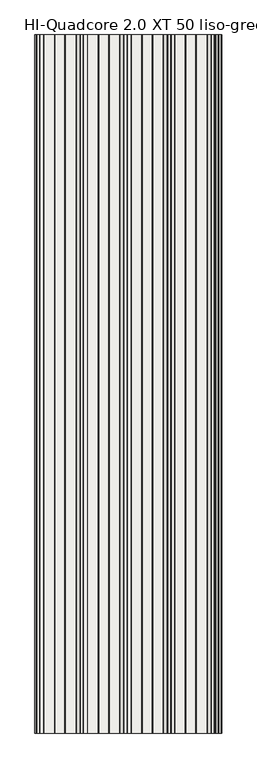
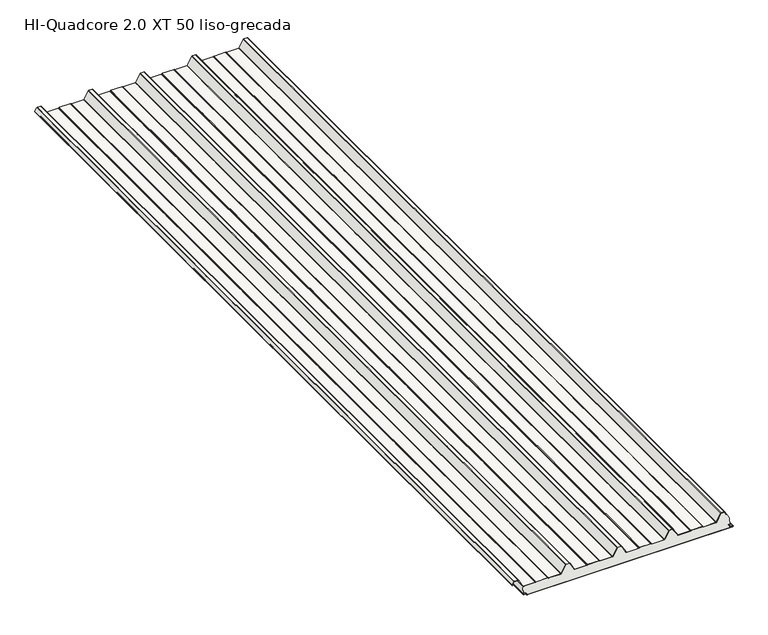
"""IFC4 building model written with IfcOpenShell, lengths in millimetres: slab geometry, Panel_HI_QuadCore 2.0 XT-XT DUAL_liso-grecada : HI-Quadcore 2.0 XT 50 liso-grecada."""

from ifc_helpers import new_model, si_unit, point, frame, frame_2d, origin, place, context, project, spatial, polyline, circle_curve, trimmed, segment, composite_curve, outline, extrude, source, transform, mapped, element, save
from ifc_brep_helpers import plane_surface, cylinder_surface, revolved_surface, advanced_brep


def hi_quadcore_2_0_xt_50_liso_grecada_518eda4b(model_context):
    return source(origin(), model_context, "Body", "SolidModel", [
        advanced_brep(
        [(-463.5686109, 0.0, 13.3795578), (-464.1543582, 0.0, 11.9654043), (-464.1543963, 0.0, 8.2995811), (-462.3003213, 0.0, 6.328543), (-451.8922768, 0.0, 5.5663871), (-450.0967368, 0.0, 3.5769209), (-450.0966924, 0.0, 1.9756011), (-448.096637, 0.0, -0.0243435), (547.9162803, 0.0, 0.003269), (549.9046779, 0.0, 2.0032908), (549.904653, 0.0, 2.9012893), (548.0077486, 0.0, 4.8985749), (536.1928118, 0.0, 5.7933732), (534.3438482, 0.0, 7.7876066), (534.3437386, 0.0, 11.7402379), (533.757913, 0.0, 13.1544352), (532.3436602, 0.0, 14.5686095), (531.7779748, 0.0, 14.0029241), (533.1922433, 0.0, 12.5887341), (533.5437386, 0.0, 11.7402157), (533.5438482, 0.0, 7.7875844), (536.1323972, 0.0, 4.9956577), (547.958132, 0.0, 4.1000416), (549.104653, 0.0, 2.9012672), (549.1046779, 0.0, 2.0032686), (547.9136554, 0.0, 0.8032689), (-448.0966592, 0.0, 0.7756565), (-449.2966924, 0.0, 1.9756233), (-449.2967368, 0.0, 3.5769431), (-451.8231384, 0.0, 6.3634663), (-462.2418956, 0.0, 7.1264067), (-463.3542572, 0.0, 8.3231689), (-463.3543582, 0.0, 11.965396), (-463.0029098, 0.0, 12.8138881), (-460.8967817, 0.0, 14.920133), (-461.4624671, 0.0, 15.4858184), (-463.5686109, 4000.0, 13.3795578), (-461.4624671, 4000.0, 15.4858184), (-460.8967817, 4000.0, 14.920133), (-463.0029098, 4000.0, 12.8138881), (-463.3543582, 4000.0, 11.965396), (-463.3543963, 4000.0, 8.2995728), (-462.2418956, 4000.0, 7.1264067), (-451.8231384, 4000.0, 6.3634663), (-449.2967368, 4000.0, 3.5769431), (-449.2966924, 4000.0, 1.9756233), (-448.0966592, 4000.0, 0.7756565), (547.9136554, 4000.0, 0.8032689), (549.1046779, 4000.0, 2.0032686), (549.104653, 4000.0, 2.9012672), (547.958132, 4000.0, 4.1000416), (536.1323972, 4000.0, 4.9956577), (533.5438482, 4000.0, 7.7875844), (533.5437386, 4000.0, 11.7402157), (533.1922433, 4000.0, 12.5887341), (531.7779748, 4000.0, 14.0029241), (532.3436602, 4000.0, 14.5686095), (533.757913, 4000.0, 13.1544352), (534.3437386, 4000.0, 11.7402379), (534.3438482, 4000.0, 7.7876066), (536.1928118, 4000.0, 5.7933732), (548.0077486, 4000.0, 4.8985749), (549.904653, 4000.0, 2.9012893), (549.9046779, 4000.0, 2.0032908), (547.9162803, 4000.0, 0.003269), (-448.096637, 4000.0, -0.0243435), (-450.0966924, 4000.0, 1.9756011), (-450.0967368, 4000.0, 3.5769209), (-451.8922768, 4000.0, 5.5663871), (-462.3003213, 4000.0, 6.328543), (-464.1542572, 4000.0, 8.3231467), (-464.1543582, 4000.0, 11.9654043)],
        [
            (0, 1, circle_curve(frame((-462.1543582, 0.0, 11.9653834), z_axis=(0.0, -1.0, 0.0), x_axis=(1.0, 0.0, 0.0)), 2.0)),
            (1, 2),
            (2, 3, circle_curve(frame((-462.1542572, 0.0, 8.3232022), z_axis=(0.0, -1.0, 0.0), x_axis=(1.0, 0.0, 0.0)), 2.0)),
            (3, 4),
            (4, 5, circle_curve(frame((-452.0967368, 0.0, 3.5768655), z_axis=(0.0, 1.0, 0.0), x_axis=(1.0, 0.0, 0.0)), 2.0)),
            (5, 6),
            (6, 7, circle_curve(frame((-448.0966924, 0.0, 1.9756565), z_axis=(0.0, -1.0, 0.0), x_axis=(1.0, 0.0, 0.0)), 2.0)),
            (7, 8),
            (8, 9, circle_curve(frame((547.9046779, 0.0, 2.0032353), z_axis=(0.0, -1.0, 0.0), x_axis=(1.0, 0.0, 0.0)), 2.0)),
            (9, 10),
            (10, 11, circle_curve(frame((547.904653, 0.0, 2.9012339), z_axis=(0.0, -1.0, 0.0), x_axis=(1.0, 0.0, 0.0)), 2.0)),
            (11, 12),
            (12, 13, circle_curve(frame((536.3438482, 0.0, 7.7876621), z_axis=(0.0, 1.0, 0.0), x_axis=(1.0, 0.0, 0.0)), 2.0)),
            (13, 14),
            (14, 15, circle_curve(frame((532.3437386, 0.0, 11.7401824), z_axis=(0.0, -1.0, 0.0), x_axis=(1.0, 0.0, 0.0)), 2.0)),
            (15, 16),
            (16, 17),
            (17, 18),
            (18, 19, circle_curve(frame((532.3437386, 0.0, 11.7401824), z_axis=(0.0, 1.0, 0.0), x_axis=(1.0, 0.0, 0.0)), 1.2)),
            (19, 20),
            (20, 21, circle_curve(frame((536.3438482, 0.0, 7.7876621), z_axis=(0.0, -1.0, 0.0), x_axis=(1.0, 0.0, 0.0)), 2.8)),
            (21, 22),
            (22, 23, circle_curve(frame((547.904653, 0.0, 2.9012339), z_axis=(0.0, 1.0, 0.0), x_axis=(1.0, 0.0, 0.0)), 1.2)),
            (23, 24),
            (24, 25, circle_curve(frame((547.9046779, 0.0, 2.0032353), z_axis=(0.0, 1.0, 0.0), x_axis=(1.0, 0.0, 0.0)), 1.2)),
            (25, 26),
            (26, 27, circle_curve(frame((-448.0966924, 0.0, 1.9756565), z_axis=(0.0, 1.0, 0.0), x_axis=(1.0, 0.0, 0.0)), 1.2)),
            (27, 28),
            (28, 29, circle_curve(frame((-452.0967368, 0.0, 3.5768655), z_axis=(0.0, -1.0, 0.0), x_axis=(1.0, 0.0, 0.0)), 2.8)),
            (29, 30),
            (30, 31, circle_curve(frame((-462.1542572, 0.0, 8.3232022), z_axis=(0.0, 1.0, 0.0), x_axis=(1.0, 0.0, 0.0)), 1.2)),
            (31, 32),
            (32, 33, circle_curve(frame((-462.1543582, 0.0, 11.9653834), z_axis=(0.0, 1.0, 0.0), x_axis=(1.0, 0.0, 0.0)), 1.2)),
            (33, 34),
            (34, 35),
            (35, 0),
            (36, 37),
            (37, 38),
            (38, 39),
            (39, 40, circle_curve(frame((-462.1543582, 4000.0, 11.9653834), z_axis=(0.0, -1.0, 0.0), x_axis=(1.0, 0.0, 0.0)), 1.2)),
            (40, 41),
            (41, 42, circle_curve(frame((-462.1542572, 4000.0, 8.3232022), z_axis=(0.0, -1.0, 0.0), x_axis=(1.0, 0.0, 0.0)), 1.2)),
            (42, 43),
            (43, 44, circle_curve(frame((-452.0967368, 4000.0, 3.5768655), z_axis=(0.0, 1.0, 0.0), x_axis=(1.0, 0.0, 0.0)), 2.8)),
            (44, 45),
            (45, 46, circle_curve(frame((-448.0966924, 4000.0, 1.9756565), z_axis=(0.0, -1.0, 0.0), x_axis=(1.0, 0.0, 0.0)), 1.2)),
            (46, 47),
            (47, 48, circle_curve(frame((547.9046779, 4000.0, 2.0032353), z_axis=(0.0, -1.0, 0.0), x_axis=(1.0, 0.0, 0.0)), 1.2)),
            (48, 49),
            (49, 50, circle_curve(frame((547.904653, 4000.0, 2.9012339), z_axis=(0.0, -1.0, 0.0), x_axis=(1.0, 0.0, 0.0)), 1.2)),
            (50, 51),
            (51, 52, circle_curve(frame((536.3438482, 4000.0, 7.7876621), z_axis=(0.0, 1.0, 0.0), x_axis=(1.0, 0.0, 0.0)), 2.8)),
            (52, 53),
            (53, 54, circle_curve(frame((532.3437386, 4000.0, 11.7401824), z_axis=(0.0, -1.0, 0.0), x_axis=(1.0, 0.0, 0.0)), 1.2)),
            (54, 55),
            (55, 56),
            (56, 57),
            (57, 58, circle_curve(frame((532.3437386, 4000.0, 11.7401824), z_axis=(0.0, 1.0, 0.0), x_axis=(1.0, 0.0, 0.0)), 2.0)),
            (58, 59),
            (59, 60, circle_curve(frame((536.3438482, 4000.0, 7.7876621), z_axis=(0.0, -1.0, 0.0), x_axis=(1.0, 0.0, 0.0)), 2.0)),
            (60, 61),
            (61, 62, circle_curve(frame((547.904653, 4000.0, 2.9012339), z_axis=(0.0, 1.0, 0.0), x_axis=(1.0, 0.0, 0.0)), 2.0)),
            (62, 63),
            (63, 64, circle_curve(frame((547.9046779, 4000.0, 2.0032353), z_axis=(0.0, 1.0, 0.0), x_axis=(1.0, 0.0, 0.0)), 2.0)),
            (64, 65),
            (65, 66, circle_curve(frame((-448.0966924, 4000.0, 1.9756565), z_axis=(0.0, 1.0, 0.0), x_axis=(1.0, 0.0, 0.0)), 2.0)),
            (66, 67),
            (67, 68, circle_curve(frame((-452.0967368, 4000.0, 3.5768655), z_axis=(0.0, -1.0, 0.0), x_axis=(1.0, 0.0, 0.0)), 2.0)),
            (68, 69),
            (69, 70, circle_curve(frame((-462.1542572, 4000.0, 8.3232022), z_axis=(0.0, 1.0, 0.0), x_axis=(1.0, 0.0, 0.0)), 2.0)),
            (70, 71),
            (71, 36, circle_curve(frame((-462.1543582, 4000.0, 11.9653834), z_axis=(0.0, 1.0, 0.0), x_axis=(1.0, 0.0, 0.0)), 2.0)),
            (0, 36),
            (71, 1),
            (70, 2),
            (69, 3),
            (68, 4),
            (67, 5),
            (66, 6),
            (65, 7),
            (64, 8),
            (63, 9),
            (62, 10),
            (61, 11),
            (60, 12),
            (59, 13),
            (58, 14),
            (57, 15),
            (56, 16),
            (55, 17),
            (54, 18),
            (53, 19),
            (52, 20),
            (51, 21),
            (50, 22),
            (49, 23),
            (48, 24),
            (47, 25),
            (46, 26),
            (45, 27),
            (44, 28),
            (43, 29),
            (42, 30),
            (41, 31),
            (40, 32),
            (39, 33),
            (38, 34),
            (37, 35),
        ],
        [
            plane_surface(frame((-460.1543582, 0.0, 11.9653834), z_axis=(0.0, -1.0, 0.0), x_axis=(0.0, 0.0, 1.0))),
            plane_surface(frame((-460.1543582, 4000.0, 11.9653834), z_axis=(0.0, 1.0, 0.0), x_axis=(0.0, 0.0, -1.0))),
            cylinder_surface(frame((-462.1543582, 4000.0, 11.9653834), z_axis=(0.0, -1.0, 0.0), x_axis=(1.0, 0.0, 0.0)), 2.0),
            plane_surface(frame((-464.1543582, 0.0, 11.9654043), z_axis=(-0.9999999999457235, 0.0, 1.041887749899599e-05), x_axis=(0.0, 1.0, 0.0))),
            cylinder_surface(frame((-462.1542572, 4000.0, 8.3232022), z_axis=(0.0, -1.0, 0.0), x_axis=(1.0, 0.0, 0.0)), 2.0),
            plane_surface(frame((-462.3003213, 0.0, 6.328543), z_axis=(-0.07303203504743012, 0.0, -0.9973295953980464), x_axis=(0.0, 1.0, 0.0))),
            revolved_surface(polyline([(-450.0967368, 4000.0, 3.5768655), (-450.0967368, 0.0, 3.5768655)]), (-452.0967368, 4000.0, 3.5768655), (0.0, 1.0, 0.0)),
            plane_surface(frame((-450.0967368, 0.0, 3.5769209), z_axis=(-0.9999999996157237, 0.0, -2.7722781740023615e-05), x_axis=(0.0, 1.0, 0.0))),
            cylinder_surface(frame((-448.0966924, 4000.0, 1.9756565), z_axis=(0.0, -1.0, 0.0), x_axis=(1.0, 0.0, 0.0)), 2.0),
            plane_surface(frame((-448.096637, 0.0, -0.0243435), z_axis=(2.772298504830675e-05, 0.0, -0.9999999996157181), x_axis=(0.0, 1.0, 0.0))),
            cylinder_surface(frame((547.9046779, 4000.0, 2.0032353), z_axis=(0.0, -1.0, 0.0), x_axis=(1.0, 0.0, 0.0)), 2.0),
            plane_surface(frame((549.9046779, 0.0, 2.0032908), z_axis=(0.9999999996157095, 0.0, 2.7723295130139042e-05), x_axis=(0.0, 1.0, 0.0))),
            cylinder_surface(frame((547.904653, 4000.0, 2.9012339), z_axis=(0.0, -1.0, 0.0), x_axis=(1.0, 0.0, 0.0)), 2.0),
            plane_surface(frame((548.0077486, 0.0, 4.8985749), z_axis=(0.07551822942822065, 0.0, 0.9971444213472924), x_axis=(0.0, 1.0, 0.0))),
            revolved_surface(polyline([(538.3438482, 4000.0, 7.7876621), (538.3438482, 0.0, 7.7876621)]), (536.3438482, 4000.0, 7.7876621), (0.0, 1.0, 0.0)),
            plane_surface(frame((534.3438482, 0.0, 7.7876066), z_axis=(0.9999999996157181, 0.0, 2.7722984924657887e-05), x_axis=(0.0, 1.0, 0.0))),
            cylinder_surface(frame((532.3437386, 4000.0, 11.7401824), z_axis=(0.0, -1.0, 0.0), x_axis=(1.0, 0.0, 0.0)), 2.0),
            plane_surface(frame((533.757913, 0.0, 13.1544352), z_axis=(0.7070871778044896, 0.0, 0.7071263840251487), x_axis=(0.0, 1.0, 0.0))),
            plane_surface(frame((532.3436602, 0.0, 14.5686095), z_axis=(-0.7071067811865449, 0.0, 0.7071067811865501), x_axis=(0.0, 1.0, 0.0))),
            plane_surface(frame((531.7779748, 0.0, 14.0029241), z_axis=(-0.7070871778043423, 0.0, -0.707126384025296), x_axis=(0.0, 1.0, 0.0))),
            revolved_surface(polyline([(533.5437386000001, 4000.0, 11.7401824), (533.5437386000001, 0.0, 11.7401824)]), (532.3437386, 4000.0, 11.7401824), (0.0, 1.0, 0.0)),
            plane_surface(frame((533.5437386, 0.0, 11.7402157), z_axis=(-0.9999999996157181, 0.0, -2.7722985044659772e-05), x_axis=(0.0, 1.0, 0.0))),
            cylinder_surface(frame((536.3438482, 4000.0, 7.7876621), z_axis=(0.0, -1.0, 0.0), x_axis=(1.0, 0.0, 0.0)), 2.8),
            plane_surface(frame((536.1323972, 0.0, 4.9956577), z_axis=(-0.07551822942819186, 0.0, -0.9971444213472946), x_axis=(0.0, 1.0, 0.0))),
            revolved_surface(polyline([(549.1046530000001, 4000.0, 2.9012339), (549.1046530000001, 0.0, 2.9012339)]), (547.904653, 4000.0, 2.9012339), (0.0, 1.0, 0.0)),
            plane_surface(frame((549.104653, 0.0, 2.9012672), z_axis=(-0.9999999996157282, 0.0, -2.7722622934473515e-05), x_axis=(0.0, 1.0, 0.0))),
            revolved_surface(polyline([(549.1046779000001, 4000.0, 2.0032353), (549.1046779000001, 0.0, 2.0032353)]), (547.9046779, 4000.0, 2.0032353), (0.0, 1.0, 0.0)),
            plane_surface(frame((547.9136554, 0.0, 0.8032689), z_axis=(-2.7722985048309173e-05, 0.0, 0.9999999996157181), x_axis=(0.0, 1.0, 0.0))),
            revolved_surface(polyline([(-446.8966924, 4000.0, 1.9756565), (-446.8966924, 0.0, 1.9756565)]), (-448.0966924, 4000.0, 1.9756565), (0.0, 1.0, 0.0)),
            plane_surface(frame((-449.2966924, 0.0, 1.9756233), z_axis=(0.9999999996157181, 0.0, 2.7722983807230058e-05), x_axis=(0.0, 1.0, 0.0))),
            cylinder_surface(frame((-452.0967368, 4000.0, 3.5768655), z_axis=(0.0, -1.0, 0.0), x_axis=(1.0, 0.0, 0.0)), 2.8),
            plane_surface(frame((-451.8231384, 0.0, 6.3634663), z_axis=(0.0730320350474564, 0.0, 0.9973295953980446), x_axis=(0.0, 1.0, 0.0))),
            revolved_surface(polyline([(-460.95425720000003, 4000.0, 8.3232022), (-460.95425720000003, 0.0, 8.3232022)]), (-462.1542572, 4000.0, 8.3232022), (0.0, 1.0, 0.0)),
            plane_surface(frame((-463.3543963, 0.0, 8.2995728), z_axis=(0.9999999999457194, 0.0, -1.0419274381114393e-05), x_axis=(0.0, 1.0, 0.0))),
            revolved_surface(polyline([(-460.9543582, 4000.0, 11.9653834), (-460.9543582, 0.0, 11.9653834)]), (-462.1543582, 4000.0, 11.9653834), (0.0, 1.0, 0.0)),
            plane_surface(frame((-463.0029098, 0.0, 12.8138881), z_axis=(0.7071263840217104, 0.0, -0.7070871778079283), x_axis=(0.0, 1.0, 0.0))),
            plane_surface(frame((-460.8967817, 0.0, 14.920133), z_axis=(0.7071067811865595, 0.0, 0.7071067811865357), x_axis=(0.0, 1.0, 0.0))),
            plane_surface(frame((-461.4624671, 0.0, 15.4858184), z_axis=(-0.7071263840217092, 0.0, 0.7070871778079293), x_axis=(0.0, 1.0, 0.0))),
        ],
        [
            (0, [[1, 2, 3, 4, 5, 6, 7, 8, 9, 10, 11, 12, 13, 14, 15, 16, 17, 18, 19, 20, 21, 22, 23, 24, 25, 26, 27, 28, 29, 30, 31, 32, 33, 34, 35, 36]]),
            (1, [[37, 38, 39, 40, 41, 42, 43, 44, 45, 46, 47, 48, 49, 50, 51, 52, 53, 54, 55, 56, 57, 58, 59, 60, 61, 62, 63, 64, 65, 66, 67, 68, 69, 70, 71, 72]]),
            (2, [[-1, 73, -72, 74]]),
            (3, [[-2, -74, -71, 75]]),
            (4, [[-3, -75, -70, 76]]),
            (5, [[-4, -76, -69, 77]]),
            (6, [[-5, -77, -68, 78]]),
            (7, [[-6, -78, -67, 79]]),
            (8, [[-7, -79, -66, 80]]),
            (9, [[-8, -80, -65, 81]]),
            (10, [[-9, -81, -64, 82]]),
            (11, [[-10, -82, -63, 83]]),
            (12, [[-11, -83, -62, 84]]),
            (13, [[-12, -84, -61, 85]]),
            (14, [[-13, -85, -60, 86]]),
            (15, [[-14, -86, -59, 87]]),
            (16, [[-15, -87, -58, 88]]),
            (17, [[-16, -88, -57, 89]]),
            (18, [[-17, -89, -56, 90]]),
            (19, [[-18, -90, -55, 91]]),
            (20, [[-19, -91, -54, 92]]),
            (21, [[-20, -92, -53, 93]]),
            (22, [[-21, -93, -52, 94]]),
            (23, [[-22, -94, -51, 95]]),
            (24, [[-23, -95, -50, 96]]),
            (25, [[-24, -96, -49, 97]]),
            (26, [[-25, -97, -48, 98]]),
            (27, [[-26, -98, -47, 99]]),
            (28, [[-27, -99, -46, 100]]),
            (29, [[-28, -100, -45, 101]]),
            (30, [[-29, -101, -44, 102]]),
            (31, [[-30, -102, -43, 103]]),
            (32, [[-31, -103, -42, 104]]),
            (33, [[-32, -104, -41, 105]]),
            (34, [[-33, -105, -40, 106]]),
            (35, [[-34, -106, -39, 107]]),
            (36, [[-35, -107, -38, 108]]),
            (37, [[-36, -108, -37, -73]]),
        ],
    ),
        extrude(outline(composite_curve([segment(polyline([(88.1649405, -511.4858571), (73.6579587, -519.6460344)]), True, "CONTINUOUS"), segment(trimmed(circle_curve(frame_2d((73.0451321, -518.556565)), 1.25), [point((73.6579587, -519.6460344))], [point((72.689225, -517.3583037))], False, "CARTESIAN"), True, "CONTINUOUS"), segment(polyline([(72.689225, -517.3583037), (75.7359115, -516.562859), (75.9380053, -517.336912), (72.9074492, -518.1281453)]), True, "CONTINUOUS"), segment(trimmed(circle_curve(frame_2d((73.0451321, -518.556565)), 0.45), [point((72.9074492, -518.1281453))], [point((73.2657497, -518.948774))], True, "CARTESIAN"), True, "CONTINUOUS"), segment(polyline([(73.2657497, -518.948774), (87.7727315, -510.7885967)]), True, "CONTINUOUS"), segment(trimmed(circle_curve(frame_2d((86.4, -508.3481852)), 2.8), [point((87.7727315, -510.7885967))], [point((89.2, -508.3481852))], True, "CARTESIAN"), True, "CONTINUOUS"), segment(polyline([(89.2, -508.3481852), (89.2, -491.0688883)]), True, "CONTINUOUS"), segment(trimmed(circle_curve(frame_2d((86.4, -491.0688883)), 2.8), [point((89.2, -491.0688883))], [point((87.5457267, -488.5140281))], True, "CARTESIAN"), True, "CONTINUOUS"), segment(polyline([(87.5457267, -488.5140281), (51.2048889, -468.6947225)]), True, "CONTINUOUS"), segment(trimmed(circle_curve(frame_2d((53.0, -465.3454575)), 3.8), [point((51.2048889, -468.6947225))], [point((49.2, -465.3454575))], False, "CARTESIAN"), True, "CONTINUOUS"), segment(polyline([(49.2, -465.3454575), (49.2, -407.5510443)]), True, "CONTINUOUS"), segment(trimmed(circle_curve(frame_2d((53.0, -407.5510443)), 3.8), [point((49.2, -407.5510443))], [point((49.6973596, -405.671532))], False, "CARTESIAN"), True, "CONTINUOUS"), segment(polyline([(49.6973596, -405.671532), (50.912055, -403.5370944)]), True, "CONTINUOUS"), segment(trimmed(circle_curve(frame_2d((49.0, -402.4489557)), 2.2), [point((50.912055, -403.5370944))], [point((51.2, -402.4489557))], True, "CARTESIAN"), True, "CONTINUOUS"), segment(polyline([(51.2, -402.4489557), (51.2, -347.5510443)]), True, "CONTINUOUS"), segment(trimmed(circle_curve(frame_2d((49.0, -347.5510443)), 2.2), [point((51.2, -347.5510443))], [point((50.912055, -346.4629056))], True, "CARTESIAN"), True, "CONTINUOUS"), segment(polyline([(50.912055, -346.4629056), (49.6973596, -344.328468)]), True, "CONTINUOUS"), segment(trimmed(circle_curve(frame_2d((53.0, -342.4489557)), 3.8), [point((49.6973596, -344.328468))], [point((49.2, -342.4489557))], False, "CARTESIAN"), True, "CONTINUOUS"), segment(polyline([(49.2, -342.4489557), (49.2, -284.2545425)]), True, "CONTINUOUS"), segment(trimmed(circle_curve(frame_2d((53.0, -284.2545425)), 3.8), [point((49.2, -284.2545425))], [point((51.1370073, -280.9425554))], False, "CARTESIAN"), True, "CONTINUOUS"), segment(polyline([(51.1370073, -280.9425554), (88.0785747, -260.1629237)]), True, "CONTINUOUS"), segment(trimmed(circle_curve(frame_2d((87.0, -258.2454575)), 2.2), [point((88.0785747, -260.1629237))], [point((89.2, -258.2454575))], True, "CARTESIAN"), True, "CONTINUOUS"), segment(polyline([(89.2, -258.2454575), (89.2, -241.7545425)]), True, "CONTINUOUS"), segment(trimmed(circle_curve(frame_2d((87.0, -241.7545425)), 2.2), [point((89.2, -241.7545425))], [point((88.0785747, -239.8370763))], True, "CARTESIAN"), True, "CONTINUOUS"), segment(polyline([(88.0785747, -239.8370763), (51.1370073, -219.0574446)]), True, "CONTINUOUS"), segment(trimmed(circle_curve(frame_2d((53.0, -215.7454575)), 3.8), [point((51.1370073, -219.0574446))], [point((49.2, -215.7454575))], False, "CARTESIAN"), True, "CONTINUOUS"), segment(polyline([(49.2, -215.7454575), (49.2, -157.5510443)]), True, "CONTINUOUS"), segment(trimmed(circle_curve(frame_2d((53.0, -157.5510443)), 3.8), [point((49.2, -157.5510443))], [point((49.6973596, -155.671532))], False, "CARTESIAN"), True, "CONTINUOUS"), segment(polyline([(49.6973596, -155.671532), (50.912055, -153.5370944)]), True, "CONTINUOUS"), segment(trimmed(circle_curve(frame_2d((49.0, -152.4489557)), 2.2), [point((50.912055, -153.5370944))], [point((51.2, -152.4489557))], True, "CARTESIAN"), True, "CONTINUOUS"), segment(polyline([(51.2, -152.4489557), (51.2, -97.5510443)]), True, "CONTINUOUS"), segment(trimmed(circle_curve(frame_2d((49.0, -97.5510443)), 2.2), [point((51.2, -97.5510443))], [point((50.912055, -96.4629056))], True, "CARTESIAN"), True, "CONTINUOUS"), segment(polyline([(50.912055, -96.4629056), (49.6973596, -94.328468)]), True, "CONTINUOUS"), segment(trimmed(circle_curve(frame_2d((53.0, -92.4489557)), 3.8), [point((49.6973596, -94.328468))], [point((49.2, -92.4489557))], False, "CARTESIAN"), True, "CONTINUOUS"), segment(polyline([(49.2, -92.4489557), (49.2, -34.2545425)]), True, "CONTINUOUS"), segment(trimmed(circle_curve(frame_2d((53.0, -34.2545425)), 3.8), [point((49.2, -34.2545425))], [point((51.1370073, -30.9425554))], False, "CARTESIAN"), True, "CONTINUOUS"), segment(polyline([(51.1370073, -30.9425554), (88.0785747, -10.1629237)]), True, "CONTINUOUS"), segment(trimmed(circle_curve(frame_2d((87.0, -8.2454575)), 2.2), [point((88.0785747, -10.1629237))], [point((89.2, -8.2454575))], True, "CARTESIAN"), True, "CONTINUOUS"), segment(polyline([(89.2, -8.2454575), (89.2, 8.2454575)]), True, "CONTINUOUS"), segment(trimmed(circle_curve(frame_2d((87.0, 8.2454575)), 2.2), [point((89.2, 8.2454575))], [point((88.0785747, 10.1629237))], True, "CARTESIAN"), True, "CONTINUOUS"), segment(polyline([(88.0785747, 10.1629237), (51.1370073, 30.9425554)]), True, "CONTINUOUS"), segment(trimmed(circle_curve(frame_2d((53.0, 34.2545425)), 3.8), [point((51.1370073, 30.9425554))], [point((49.2, 34.2545425))], False, "CARTESIAN"), True, "CONTINUOUS"), segment(polyline([(49.2, 34.2545425), (49.2, 92.4489557)]), True, "CONTINUOUS"), segment(trimmed(circle_curve(frame_2d((53.0, 92.4489557)), 3.8), [point((49.2, 92.4489557))], [point((49.6973596, 94.328468))], False, "CARTESIAN"), True, "CONTINUOUS"), segment(polyline([(49.6973596, 94.328468), (50.912055, 96.4629056)]), True, "CONTINUOUS"), segment(trimmed(circle_curve(frame_2d((49.0, 97.5510443)), 2.2), [point((50.912055, 96.4629056))], [point((51.2, 97.5510443))], True, "CARTESIAN"), True, "CONTINUOUS"), segment(polyline([(51.2, 97.5510443), (51.2, 152.4489557)]), True, "CONTINUOUS"), segment(trimmed(circle_curve(frame_2d((49.0, 152.4489557)), 2.2), [point((51.2, 152.4489557))], [point((50.912055, 153.5370944))], True, "CARTESIAN"), True, "CONTINUOUS"), segment(polyline([(50.912055, 153.5370944), (49.6973596, 155.671532)]), True, "CONTINUOUS"), segment(trimmed(circle_curve(frame_2d((53.0, 157.5510443)), 3.8), [point((49.6973596, 155.671532))], [point((49.2, 157.5510443))], False, "CARTESIAN"), True, "CONTINUOUS"), segment(polyline([(49.2, 157.5510443), (49.2, 215.7454575)]), True, "CONTINUOUS"), segment(trimmed(circle_curve(frame_2d((53.0, 215.7454575)), 3.8), [point((49.2, 215.7454575))], [point((51.1370073, 219.0574446))], False, "CARTESIAN"), True, "CONTINUOUS"), segment(polyline([(51.1370073, 219.0574446), (88.0785747, 239.8370763)]), True, "CONTINUOUS"), segment(trimmed(circle_curve(frame_2d((87.0, 241.7545425)), 2.2), [point((88.0785747, 239.8370763))], [point((89.2, 241.7545425))], True, "CARTESIAN"), True, "CONTINUOUS"), segment(polyline([(89.2, 241.7545425), (89.2, 258.2454575)]), True, "CONTINUOUS"), segment(trimmed(circle_curve(frame_2d((87.0, 258.2454575)), 2.2), [point((89.2, 258.2454575))], [point((88.0785747, 260.1629237))], True, "CARTESIAN"), True, "CONTINUOUS"), segment(polyline([(88.0785747, 260.1629237), (51.1370073, 280.9425554)]), True, "CONTINUOUS"), segment(trimmed(circle_curve(frame_2d((53.0, 284.2545425)), 3.8), [point((51.1370073, 280.9425554))], [point((49.2, 284.2545425))], False, "CARTESIAN"), True, "CONTINUOUS"), segment(polyline([(49.2, 284.2545425), (49.2, 342.4489557)]), True, "CONTINUOUS"), segment(trimmed(circle_curve(frame_2d((53.0, 342.4489557)), 3.8), [point((49.2, 342.4489557))], [point((49.6973596, 344.328468))], False, "CARTESIAN"), True, "CONTINUOUS"), segment(polyline([(49.6973596, 344.328468), (50.912055, 346.4629056)]), True, "CONTINUOUS"), segment(trimmed(circle_curve(frame_2d((49.0, 347.5510443)), 2.2), [point((50.912055, 346.4629056))], [point((51.2, 347.5510443))], True, "CARTESIAN"), True, "CONTINUOUS"), segment(polyline([(51.2, 347.5510443), (51.2, 402.4489557)]), True, "CONTINUOUS"), segment(trimmed(circle_curve(frame_2d((49.0, 402.4489557)), 2.2), [point((51.2, 402.4489557))], [point((50.912055, 403.5370944))], True, "CARTESIAN"), True, "CONTINUOUS"), segment(polyline([(50.912055, 403.5370944), (49.6973596, 405.671532)]), True, "CONTINUOUS"), segment(trimmed(circle_curve(frame_2d((53.0, 407.5510443)), 3.8), [point((49.6973596, 405.671532))], [point((49.2, 407.5510443))], False, "CARTESIAN"), True, "CONTINUOUS"), segment(polyline([(49.2, 407.5510443), (49.2, 466.4208923)]), True, "CONTINUOUS"), segment(trimmed(circle_curve(frame_2d((53.0, 466.4208923)), 3.8), [point((49.2, 466.4208923))], [point((51.1583504, 469.7447946))], False, "CARTESIAN"), True, "CONTINUOUS"), segment(polyline([(51.1583504, 469.7447946), (88.0662182, 490.1940602)]), True, "CONTINUOUS"), segment(trimmed(circle_curve(frame_2d((87.0, 492.1184247)), 2.2), [point((88.0662182, 490.1940602))], [point((89.2, 492.1184247))], True, "CARTESIAN"), True, "CONTINUOUS"), segment(polyline([(89.2, 492.1184247), (89.2, 507.4945491)]), True, "CONTINUOUS"), segment(trimmed(circle_curve(frame_2d((87.0, 507.4945491)), 2.2), [point((89.2, 507.4945491))], [point((88.0785747, 509.4120152))], True, "CARTESIAN"), True, "CONTINUOUS"), segment(polyline([(88.0785747, 509.4120152), (77.5275176, 515.3469849)]), True, "CONTINUOUS"), segment(trimmed(circle_curve(frame_2d((76.9392041, 514.3010942)), 1.2), [point((77.5275176, 515.3469849))], [point((76.3392623, 515.3403583))], True, "CARTESIAN"), True, "CONTINUOUS"), segment(polyline([(76.3392623, 515.3403583), (74.7281681, 514.4103128), (74.3282068, 515.1031555), (75.939301, 516.033201)]), True, "CONTINUOUS"), segment(trimmed(circle_curve(frame_2d((76.9392041, 514.3010942)), 2.0), [point((75.939301, 516.033201))], [point((77.9197266, 516.0442453))], False, "CARTESIAN"), True, "CONTINUOUS"), segment(polyline([(77.9197266, 516.0442453), (88.4707837, 510.1092757)]), True, "CONTINUOUS"), segment(trimmed(circle_curve(frame_2d((87.0, 507.4945491)), 3.0), [point((88.4707837, 510.1092757))], [point((90.0, 507.4945491))], False, "CARTESIAN"), True, "CONTINUOUS"), segment(polyline([(90.0, 507.4945491), (90.0, 492.1184247)]), True, "CONTINUOUS"), segment(trimmed(circle_curve(frame_2d((87.0, 492.1184247)), 3.0), [point((90.0, 492.1184247))], [point((88.4539339, 489.4942913))], False, "CARTESIAN"), True, "CONTINUOUS"), segment(polyline([(88.4539339, 489.4942913), (51.5460661, 469.0450257)]), True, "CONTINUOUS"), segment(trimmed(circle_curve(frame_2d((53.0, 466.4208923)), 3.0), [point((51.5460661, 469.0450257))], [point((50.0, 466.4208923))], True, "CARTESIAN"), True, "CONTINUOUS"), segment(polyline([(50.0, 466.4208923), (50.0, 407.5510443)]), True, "CONTINUOUS"), segment(trimmed(circle_curve(frame_2d((53.0, 407.5510443)), 3.0), [point((50.0, 407.5510443))], [point((50.3926523, 406.0672188))], True, "CARTESIAN"), True, "CONTINUOUS"), segment(polyline([(50.3926523, 406.0672188), (51.6073477, 403.9327812)]), True, "CONTINUOUS"), segment(trimmed(circle_curve(frame_2d((49.0, 402.4489557)), 3.0), [point((51.6073477, 403.9327812))], [point((52.0, 402.4489557))], False, "CARTESIAN"), True, "CONTINUOUS"), segment(polyline([(52.0, 402.4489557), (52.0, 347.5510443)]), True, "CONTINUOUS"), segment(trimmed(circle_curve(frame_2d((49.0, 347.5510443)), 3.0), [point((52.0, 347.5510443))], [point((51.6073477, 346.0672188))], False, "CARTESIAN"), True, "CONTINUOUS"), segment(polyline([(51.6073477, 346.0672188), (50.3926523, 343.9327812)]), True, "CONTINUOUS"), segment(trimmed(circle_curve(frame_2d((53.0, 342.4489557)), 3.0), [point((50.3926523, 343.9327812))], [point((50.0, 342.4489557))], True, "CARTESIAN"), True, "CONTINUOUS"), segment(polyline([(50.0, 342.4489557), (50.0, 284.2545425)]), True, "CONTINUOUS"), segment(trimmed(circle_curve(frame_2d((53.0, 284.2545425)), 3.0), [point((50.0, 284.2545425))], [point((51.5292163, 281.6398158))], True, "CARTESIAN"), True, "CONTINUOUS"), segment(polyline([(51.5292163, 281.6398158), (88.4707837, 260.8601842)]), True, "CONTINUOUS"), segment(trimmed(circle_curve(frame_2d((87.0, 258.2454575)), 3.0), [point((88.4707837, 260.8601842))], [point((90.0, 258.2454575))], False, "CARTESIAN"), True, "CONTINUOUS"), segment(polyline([(90.0, 258.2454575), (90.0, 241.7545425)]), True, "CONTINUOUS"), segment(trimmed(circle_curve(frame_2d((87.0, 241.7545425)), 3.0), [point((90.0, 241.7545425))], [point((88.4707837, 239.1398158))], False, "CARTESIAN"), True, "CONTINUOUS"), segment(polyline([(88.4707837, 239.1398158), (51.5292163, 218.3601842)]), True, "CONTINUOUS"), segment(trimmed(circle_curve(frame_2d((53.0, 215.7454575)), 3.0), [point((51.5292163, 218.3601842))], [point((50.0, 215.7454575))], True, "CARTESIAN"), True, "CONTINUOUS"), segment(polyline([(50.0, 215.7454575), (50.0, 157.5510443)]), True, "CONTINUOUS"), segment(trimmed(circle_curve(frame_2d((53.0, 157.5510443)), 3.0), [point((50.0, 157.5510443))], [point((50.3926523, 156.0672188))], True, "CARTESIAN"), True, "CONTINUOUS"), segment(polyline([(50.3926523, 156.0672188), (51.6073477, 153.9327812)]), True, "CONTINUOUS"), segment(trimmed(circle_curve(frame_2d((49.0, 152.4489557)), 3.0), [point((51.6073477, 153.9327812))], [point((52.0, 152.4489557))], False, "CARTESIAN"), True, "CONTINUOUS"), segment(polyline([(52.0, 152.4489557), (52.0, 97.5510443)]), True, "CONTINUOUS"), segment(trimmed(circle_curve(frame_2d((49.0, 97.5510443)), 3.0), [point((52.0, 97.5510443))], [point((51.6073477, 96.0672188))], False, "CARTESIAN"), True, "CONTINUOUS"), segment(polyline([(51.6073477, 96.0672188), (50.3926523, 93.9327812)]), True, "CONTINUOUS"), segment(trimmed(circle_curve(frame_2d((53.0, 92.4489557)), 3.0), [point((50.3926523, 93.9327812))], [point((50.0, 92.4489557))], True, "CARTESIAN"), True, "CONTINUOUS"), segment(polyline([(50.0, 92.4489557), (50.0, 34.2545425)]), True, "CONTINUOUS"), segment(trimmed(circle_curve(frame_2d((53.0, 34.2545425)), 3.0), [point((50.0, 34.2545425))], [point((51.5292163, 31.6398158))], True, "CARTESIAN"), True, "CONTINUOUS"), segment(polyline([(51.5292163, 31.6398158), (88.4707837, 10.8601842)]), True, "CONTINUOUS"), segment(trimmed(circle_curve(frame_2d((87.0, 8.2454575)), 3.0), [point((88.4707837, 10.8601842))], [point((90.0, 8.2454575))], False, "CARTESIAN"), True, "CONTINUOUS"), segment(polyline([(90.0, 8.2454575), (90.0, -8.2454575)]), True, "CONTINUOUS"), segment(trimmed(circle_curve(frame_2d((87.0, -8.2454575)), 3.0), [point((90.0, -8.2454575))], [point((88.4707837, -10.8601842))], False, "CARTESIAN"), True, "CONTINUOUS"), segment(polyline([(88.4707837, -10.8601842), (51.5292163, -31.6398158)]), True, "CONTINUOUS"), segment(trimmed(circle_curve(frame_2d((53.0, -34.2545425)), 3.0), [point((51.5292163, -31.6398158))], [point((50.0, -34.2545425))], True, "CARTESIAN"), True, "CONTINUOUS"), segment(polyline([(50.0, -34.2545425), (50.0, -92.4489557)]), True, "CONTINUOUS"), segment(trimmed(circle_curve(frame_2d((53.0, -92.4489557)), 3.0), [point((50.0, -92.4489557))], [point((50.3926523, -93.9327812))], True, "CARTESIAN"), True, "CONTINUOUS"), segment(polyline([(50.3926523, -93.9327812), (51.6073477, -96.0672188)]), True, "CONTINUOUS"), segment(trimmed(circle_curve(frame_2d((49.0, -97.5510443)), 3.0), [point((51.6073477, -96.0672188))], [point((52.0, -97.5510443))], False, "CARTESIAN"), True, "CONTINUOUS"), segment(polyline([(52.0, -97.5510443), (52.0, -152.4489557)]), True, "CONTINUOUS"), segment(trimmed(circle_curve(frame_2d((49.0, -152.4489557)), 3.0), [point((52.0, -152.4489557))], [point((51.6073477, -153.9327812))], False, "CARTESIAN"), True, "CONTINUOUS"), segment(polyline([(51.6073477, -153.9327812), (50.3926523, -156.0672188)]), True, "CONTINUOUS"), segment(trimmed(circle_curve(frame_2d((53.0, -157.5510443)), 3.0), [point((50.3926523, -156.0672188))], [point((50.0, -157.5510443))], True, "CARTESIAN"), True, "CONTINUOUS"), segment(polyline([(50.0, -157.5510443), (50.0, -215.7454575)]), True, "CONTINUOUS"), segment(trimmed(circle_curve(frame_2d((53.0, -215.7454575)), 3.0), [point((50.0, -215.7454575))], [point((51.5292163, -218.3601842))], True, "CARTESIAN"), True, "CONTINUOUS"), segment(polyline([(51.5292163, -218.3601842), (88.4707837, -239.1398158)]), True, "CONTINUOUS"), segment(trimmed(circle_curve(frame_2d((87.0, -241.7545425)), 3.0), [point((88.4707837, -239.1398158))], [point((90.0, -241.7545425))], False, "CARTESIAN"), True, "CONTINUOUS"), segment(polyline([(90.0, -241.7545425), (90.0, -258.2454575)]), True, "CONTINUOUS"), segment(trimmed(circle_curve(frame_2d((87.0, -258.2454575)), 3.0), [point((90.0, -258.2454575))], [point((88.4707837, -260.8601842))], False, "CARTESIAN"), True, "CONTINUOUS"), segment(polyline([(88.4707837, -260.8601842), (51.5292163, -281.6398158)]), True, "CONTINUOUS"), segment(trimmed(circle_curve(frame_2d((53.0, -284.2545425)), 3.0), [point((51.5292163, -281.6398158))], [point((50.0, -284.2545425))], True, "CARTESIAN"), True, "CONTINUOUS"), segment(polyline([(50.0, -284.2545425), (50.0, -342.4489557)]), True, "CONTINUOUS"), segment(trimmed(circle_curve(frame_2d((53.0, -342.4489557)), 3.0), [point((50.0, -342.4489557))], [point((50.3926523, -343.9327812))], True, "CARTESIAN"), True, "CONTINUOUS"), segment(polyline([(50.3926523, -343.9327812), (51.6073477, -346.0672188)]), True, "CONTINUOUS"), segment(trimmed(circle_curve(frame_2d((49.0, -347.5510443)), 3.0), [point((51.6073477, -346.0672188))], [point((52.0, -347.5510443))], False, "CARTESIAN"), True, "CONTINUOUS"), segment(polyline([(52.0, -347.5510443), (52.0, -402.4489557)]), True, "CONTINUOUS"), segment(trimmed(circle_curve(frame_2d((49.0, -402.4489557)), 3.0), [point((52.0, -402.4489557))], [point((51.6073477, -403.9327812))], False, "CARTESIAN"), True, "CONTINUOUS"), segment(polyline([(51.6073477, -403.9327812), (50.3926523, -406.0672188)]), True, "CONTINUOUS"), segment(trimmed(circle_curve(frame_2d((53.0, -407.5510443)), 3.0), [point((50.3926523, -406.0672188))], [point((50.0, -407.5510443))], True, "CARTESIAN"), True, "CONTINUOUS"), segment(polyline([(50.0, -407.5510443), (50.0, -465.3454575)]), True, "CONTINUOUS"), segment(trimmed(circle_curve(frame_2d((53.0, -465.3454575)), 3.0), [point((50.0, -465.3454575))], [point((51.5852209, -467.9909065))], True, "CARTESIAN"), True, "CONTINUOUS"), segment(polyline([(51.5852209, -467.9909065), (87.9031732, -487.7977309)]), True, "CONTINUOUS"), segment(trimmed(circle_curve(frame_2d((86.4, -491.0688883)), 3.6), [point((87.9031732, -487.7977309))], [point((90.0, -491.0688883))], False, "CARTESIAN"), True, "CONTINUOUS"), segment(polyline([(90.0, -491.0688883), (90.0, -508.3481852)]), True, "CONTINUOUS"), segment(trimmed(circle_curve(frame_2d((86.4, -508.3481852)), 3.6), [point((90.0, -508.3481852))], [point((88.1649405, -511.4858571))], False, "CARTESIAN"), True, "CONTINUOUS")], self_intersect=False)), frame((0.0, 0.0, 0.0), z_axis=(0.0, 1.0, 0.0), x_axis=(0.0, 0.0, 1.0)), (0.0, 0.0, 1.0), 4000.0),
        extrude(outline(composite_curve([segment(polyline([(51.2667387, 531.036551), (77.9197266, 516.0442453)]), True, "CONTINUOUS"), segment(trimmed(circle_curve(frame_2d((76.9392041, 514.3010942)), 2.0), [point((77.9197266, 516.0442453))], [point((75.939301, 516.033201))], True, "CARTESIAN"), True, "CONTINUOUS"), segment(polyline([(75.939301, 516.033201), (74.3282068, 515.1031555), (74.7281681, 514.4103128), (76.3392623, 515.3403583)]), True, "CONTINUOUS"), segment(trimmed(circle_curve(frame_2d((76.9392041, 514.3010942)), 1.2), [point((76.3392623, 515.3403583))], [point((77.5275176, 515.3469849))], False, "CARTESIAN"), True, "CONTINUOUS"), segment(polyline([(77.5275176, 515.3469849), (88.0785747, 509.4120152)]), True, "CONTINUOUS"), segment(trimmed(circle_curve(frame_2d((87.0, 507.4945491)), 2.2), [point((88.0785747, 509.4120152))], [point((89.2, 507.4945491))], False, "CARTESIAN"), True, "CONTINUOUS"), segment(polyline([(89.2, 507.4945491), (89.2, 492.1184247)]), True, "CONTINUOUS"), segment(trimmed(circle_curve(frame_2d((87.0, 492.1184247)), 2.2), [point((89.2, 492.1184247))], [point((88.0662182, 490.1940602))], False, "CARTESIAN"), True, "CONTINUOUS"), segment(polyline([(88.0662182, 490.1940602), (51.1583504, 469.7447946)]), True, "CONTINUOUS"), segment(trimmed(circle_curve(frame_2d((53.0, 466.4208923)), 3.8), [point((51.1583504, 469.7447946))], [point((49.2, 466.4208923))], True, "CARTESIAN"), True, "CONTINUOUS"), segment(polyline([(49.2, 466.4208923), (49.2, 407.5510443)]), True, "CONTINUOUS"), segment(trimmed(circle_curve(frame_2d((53.0, 407.5510443)), 3.8), [point((49.2, 407.5510443))], [point((49.6973596, 405.671532))], True, "CARTESIAN"), True, "CONTINUOUS"), segment(polyline([(49.6973596, 405.671532), (50.912055, 403.5370944)]), True, "CONTINUOUS"), segment(trimmed(circle_curve(frame_2d((49.0, 402.4489557)), 2.2), [point((50.912055, 403.5370944))], [point((51.2, 402.4489557))], False, "CARTESIAN"), True, "CONTINUOUS"), segment(polyline([(51.2, 402.4489557), (51.2, 347.5510443)]), True, "CONTINUOUS"), segment(trimmed(circle_curve(frame_2d((49.0, 347.5510443)), 2.2), [point((51.2, 347.5510443))], [point((50.912055, 346.4629056))], False, "CARTESIAN"), True, "CONTINUOUS"), segment(polyline([(50.912055, 346.4629056), (49.6973596, 344.328468)]), True, "CONTINUOUS"), segment(trimmed(circle_curve(frame_2d((53.0, 342.4489557)), 3.8), [point((49.6973596, 344.328468))], [point((49.2, 342.4489557))], True, "CARTESIAN"), True, "CONTINUOUS"), segment(polyline([(49.2, 342.4489557), (49.2, 284.2545425)]), True, "CONTINUOUS"), segment(trimmed(circle_curve(frame_2d((53.0, 284.2545425)), 3.8), [point((49.2, 284.2545425))], [point((51.1370073, 280.9425554))], True, "CARTESIAN"), True, "CONTINUOUS"), segment(polyline([(51.1370073, 280.9425554), (88.0785747, 260.1629237)]), True, "CONTINUOUS"), segment(trimmed(circle_curve(frame_2d((87.0, 258.2454575)), 2.2), [point((88.0785747, 260.1629237))], [point((89.2, 258.2454575))], False, "CARTESIAN"), True, "CONTINUOUS"), segment(polyline([(89.2, 258.2454575), (89.2, 241.7545425)]), True, "CONTINUOUS"), segment(trimmed(circle_curve(frame_2d((87.0, 241.7545425)), 2.2), [point((89.2, 241.7545425))], [point((88.0785747, 239.8370763))], False, "CARTESIAN"), True, "CONTINUOUS"), segment(polyline([(88.0785747, 239.8370763), (51.1370073, 219.0574446)]), True, "CONTINUOUS"), segment(trimmed(circle_curve(frame_2d((53.0, 215.7454575)), 3.8), [point((51.1370073, 219.0574446))], [point((49.2, 215.7454575))], True, "CARTESIAN"), True, "CONTINUOUS"), segment(polyline([(49.2, 215.7454575), (49.2, 157.5510443)]), True, "CONTINUOUS"), segment(trimmed(circle_curve(frame_2d((53.0, 157.5510443)), 3.8), [point((49.2, 157.5510443))], [point((49.6973596, 155.671532))], True, "CARTESIAN"), True, "CONTINUOUS"), segment(polyline([(49.6973596, 155.671532), (50.912055, 153.5370944)]), True, "CONTINUOUS"), segment(trimmed(circle_curve(frame_2d((49.0, 152.4489557)), 2.2), [point((50.912055, 153.5370944))], [point((51.2, 152.4489557))], False, "CARTESIAN"), True, "CONTINUOUS"), segment(polyline([(51.2, 152.4489557), (51.2, 97.5510443)]), True, "CONTINUOUS"), segment(trimmed(circle_curve(frame_2d((49.0, 97.5510443)), 2.2), [point((51.2, 97.5510443))], [point((50.912055, 96.4629056))], False, "CARTESIAN"), True, "CONTINUOUS"), segment(polyline([(50.912055, 96.4629056), (49.6973596, 94.328468)]), True, "CONTINUOUS"), segment(trimmed(circle_curve(frame_2d((53.0, 92.4489557)), 3.8), [point((49.6973596, 94.328468))], [point((49.2, 92.4489557))], True, "CARTESIAN"), True, "CONTINUOUS"), segment(polyline([(49.2, 92.4489557), (49.2, 34.2545425)]), True, "CONTINUOUS"), segment(trimmed(circle_curve(frame_2d((53.0, 34.2545425)), 3.8), [point((49.2, 34.2545425))], [point((51.1370073, 30.9425554))], True, "CARTESIAN"), True, "CONTINUOUS"), segment(polyline([(51.1370073, 30.9425554), (88.0785747, 10.1629237)]), True, "CONTINUOUS"), segment(trimmed(circle_curve(frame_2d((87.0, 8.2454575)), 2.2), [point((88.0785747, 10.1629237))], [point((89.2, 8.2454575))], False, "CARTESIAN"), True, "CONTINUOUS"), segment(polyline([(89.2, 8.2454575), (89.2, -8.2454575)]), True, "CONTINUOUS"), segment(trimmed(circle_curve(frame_2d((87.0, -8.2454575)), 2.2), [point((89.2, -8.2454575))], [point((88.0785747, -10.1629237))], False, "CARTESIAN"), True, "CONTINUOUS"), segment(polyline([(88.0785747, -10.1629237), (51.1370073, -30.9425554)]), True, "CONTINUOUS"), segment(trimmed(circle_curve(frame_2d((53.0, -34.2545425)), 3.8), [point((51.1370073, -30.9425554))], [point((49.2, -34.2545425))], True, "CARTESIAN"), True, "CONTINUOUS"), segment(polyline([(49.2, -34.2545425), (49.2, -92.4489557)]), True, "CONTINUOUS"), segment(trimmed(circle_curve(frame_2d((53.0, -92.4489557)), 3.8), [point((49.2, -92.4489557))], [point((49.6973596, -94.328468))], True, "CARTESIAN"), True, "CONTINUOUS"), segment(polyline([(49.6973596, -94.328468), (50.912055, -96.4629056)]), True, "CONTINUOUS"), segment(trimmed(circle_curve(frame_2d((49.0, -97.5510443)), 2.2), [point((50.912055, -96.4629056))], [point((51.2, -97.5510443))], False, "CARTESIAN"), True, "CONTINUOUS"), segment(polyline([(51.2, -97.5510443), (51.2, -152.4489557)]), True, "CONTINUOUS"), segment(trimmed(circle_curve(frame_2d((49.0, -152.4489557)), 2.2), [point((51.2, -152.4489557))], [point((50.912055, -153.5370944))], False, "CARTESIAN"), True, "CONTINUOUS"), segment(polyline([(50.912055, -153.5370944), (49.6973596, -155.671532)]), True, "CONTINUOUS"), segment(trimmed(circle_curve(frame_2d((53.0, -157.5510443)), 3.8), [point((49.6973596, -155.671532))], [point((49.2, -157.5510443))], True, "CARTESIAN"), True, "CONTINUOUS"), segment(polyline([(49.2, -157.5510443), (49.2, -215.7454575)]), True, "CONTINUOUS"), segment(trimmed(circle_curve(frame_2d((53.0, -215.7454575)), 3.8), [point((49.2, -215.7454575))], [point((51.1370073, -219.0574446))], True, "CARTESIAN"), True, "CONTINUOUS"), segment(polyline([(51.1370073, -219.0574446), (88.0785747, -239.8370763)]), True, "CONTINUOUS"), segment(trimmed(circle_curve(frame_2d((87.0, -241.7545425)), 2.2), [point((88.0785747, -239.8370763))], [point((89.2, -241.7545425))], False, "CARTESIAN"), True, "CONTINUOUS"), segment(polyline([(89.2, -241.7545425), (89.2, -258.2454575)]), True, "CONTINUOUS"), segment(trimmed(circle_curve(frame_2d((87.0, -258.2454575)), 2.2), [point((89.2, -258.2454575))], [point((88.0785747, -260.1629237))], False, "CARTESIAN"), True, "CONTINUOUS"), segment(polyline([(88.0785747, -260.1629237), (51.1370073, -280.9425554)]), True, "CONTINUOUS"), segment(trimmed(circle_curve(frame_2d((53.0, -284.2545425)), 3.8), [point((51.1370073, -280.9425554))], [point((49.2, -284.2545425))], True, "CARTESIAN"), True, "CONTINUOUS"), segment(polyline([(49.2, -284.2545425), (49.2, -342.4489557)]), True, "CONTINUOUS"), segment(trimmed(circle_curve(frame_2d((53.0, -342.4489557)), 3.8), [point((49.2, -342.4489557))], [point((49.6973596, -344.328468))], True, "CARTESIAN"), True, "CONTINUOUS"), segment(polyline([(49.6973596, -344.328468), (50.912055, -346.4629056)]), True, "CONTINUOUS"), segment(trimmed(circle_curve(frame_2d((49.0, -347.5510443)), 2.2), [point((50.912055, -346.4629056))], [point((51.2, -347.5510443))], False, "CARTESIAN"), True, "CONTINUOUS"), segment(polyline([(51.2, -347.5510443), (51.2, -402.4489557)]), True, "CONTINUOUS"), segment(trimmed(circle_curve(frame_2d((49.0, -402.4489557)), 2.2), [point((51.2, -402.4489557))], [point((50.912055, -403.5370944))], False, "CARTESIAN"), True, "CONTINUOUS"), segment(polyline([(50.912055, -403.5370944), (49.6973596, -405.671532)]), True, "CONTINUOUS"), segment(trimmed(circle_curve(frame_2d((53.0, -407.5510443)), 3.8), [point((49.6973596, -405.671532))], [point((49.2, -407.5510443))], True, "CARTESIAN"), True, "CONTINUOUS"), segment(polyline([(49.2, -407.5510443), (49.2, -465.3454575)]), True, "CONTINUOUS"), segment(trimmed(circle_curve(frame_2d((53.0, -465.3454575)), 3.8), [point((49.2, -465.3454575))], [point((51.2048889, -468.6947225))], True, "CARTESIAN"), True, "CONTINUOUS"), segment(polyline([(51.2048889, -468.6947225), (7.0308356, -465.5377778), (7.2414508, -464.1542269), (11.9758652, -464.1543581)]), True, "CONTINUOUS"), segment(trimmed(circle_curve(frame_2d((11.9759207, -462.1543582)), 2.0), [point((11.9758652, -464.1543581))], [point((13.390095, -463.5686109))], True, "CARTESIAN"), True, "CONTINUOUS"), segment(polyline([(13.390095, -463.5686109), (15.4963556, -461.4624671), (14.9306702, -460.8967817), (12.8244253, -463.0029098)]), True, "CONTINUOUS"), segment(trimmed(circle_curve(frame_2d((11.9759207, -462.1543582)), 1.2), [point((12.8244253, -463.0029098))], [point((11.9758874, -463.3543582))], False, "CARTESIAN"), True, "CONTINUOUS"), segment(polyline([(11.9758874, -463.3543582), (8.3337062, -463.3542572)]), True, "CONTINUOUS"), segment(trimmed(circle_curve(frame_2d((8.3337394, -462.1542572)), 1.2), [point((8.3337062, -463.3542572))], [point((7.1369439, -462.2418956))], False, "CARTESIAN"), True, "CONTINUOUS"), segment(polyline([(7.1369439, -462.2418956), (6.3740035, -451.8231384)]), True, "CONTINUOUS"), segment(trimmed(circle_curve(frame_2d((3.5874027, -452.0967368)), 2.8), [point((6.3740035, -451.8231384))], [point((3.5874804, -449.2967368))], True, "CARTESIAN"), True, "CONTINUOUS"), segment(polyline([(3.5874804, -449.2967368), (1.9756233, -449.2966921)]), True, "CONTINUOUS"), segment(trimmed(circle_curve(frame_2d((1.9756562, -448.0966924)), 1.1999997), [point((1.9756233, -449.2966921))], [point((0.7756565, -448.0966592))], False, "CARTESIAN"), True, "CONTINUOUS"), segment(polyline([(0.7756565, -448.0966592), (0.8032689, 547.9136557)]), True, "CONTINUOUS"), segment(trimmed(circle_curve(frame_2d((2.0032353, 547.9046782)), 1.2), [point((0.8032689, 547.9136557))], [point((2.0032686, 549.1046782))], False, "CARTESIAN"), True, "CONTINUOUS"), segment(polyline([(2.0032686, 549.1046782), (2.9118044, 549.104653)]), True, "CONTINUOUS"), segment(trimmed(circle_curve(frame_2d((2.9117711, 547.9046533)), 1.1999997), [point((2.9118044, 549.104653))], [point((4.1105786, 547.9581323))], False, "CARTESIAN"), True, "CONTINUOUS"), segment(polyline([(4.1105786, 547.9581323), (5.0061949, 536.1323972)]), True, "CONTINUOUS"), segment(trimmed(circle_curve(frame_2d((7.7981993, 536.3438482)), 2.8), [point((5.0061949, 536.1323972))], [point((7.7981217, 533.5438482))], True, "CARTESIAN"), True, "CONTINUOUS"), segment(polyline([(7.7981217, 533.5438482), (11.7460458, 533.5455151)]), True, "CONTINUOUS"), segment(trimmed(circle_curve(frame_2d((11.7411592, 532.3429645)), 1.2025605), [point((11.7460458, 533.5455151))], [point((12.5937174, 533.1910778))], False, "CARTESIAN"), True, "CONTINUOUS"), segment(polyline([(12.5937174, 533.1910778), (14.0134457, 531.7779905), (14.5791311, 532.3436759), (13.1649724, 533.757913), (51.2667387, 531.036551)]), True, "CONTINUOUS")], self_intersect=False)), frame((0.0, 0.0, 0.0), z_axis=(0.0, 1.0, 0.0), x_axis=(0.0, 0.0, 1.0)), (0.0, 0.0, 1.0), 4000.0),
    ])


if __name__ == "__main__":
    model = new_model("IFC4")
    model_context = context("Model", 3, world=origin())
    ifc_project = project(units=[si_unit("LENGTHUNIT", "METRE", prefix="MILLI")], contexts=[model_context])
    site = spatial("IfcSite", under=ifc_project)
    building = spatial("IfcBuilding", under=site)
    placement = place(None, origin())
    hi_quadcore_2_0_xt_50_liso_grecada_shape = hi_quadcore_2_0_xt_50_liso_grecada_518eda4b(model_context)
    element("IfcSlab", 1, ObjectType="Panel_HI_QuadCore 2.0 XT-XT DUAL_liso-grecada : HI-Quadcore 2.0 XT 50 liso-grecada", at=placement, inside=building, context=model_context, shape_type="MappedRepresentation", body=[
        mapped(hi_quadcore_2_0_xt_50_liso_grecada_shape, transform((0.0, 0.0, 0.0), x_axis=(1.0, 0.0, 0.0), y_axis=(0.0, 1.0, 0.0), z_axis=(0.0, 0.0, 1.0))),
    ])
    save(model, "model.ifc")
